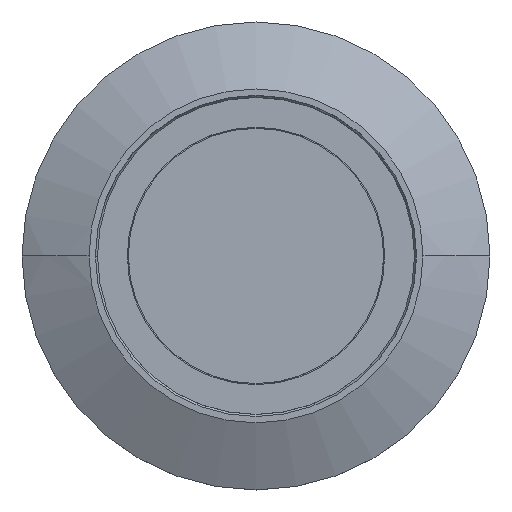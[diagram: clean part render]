
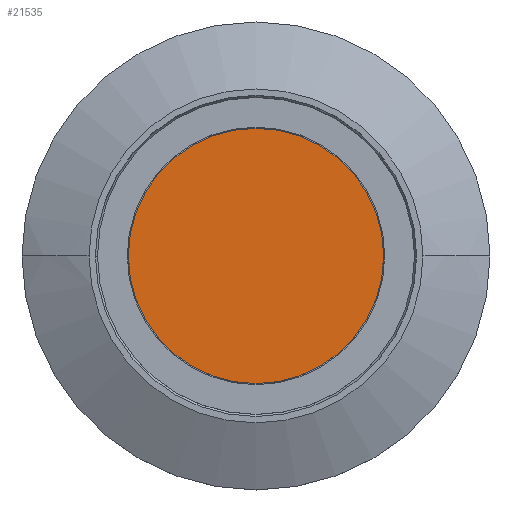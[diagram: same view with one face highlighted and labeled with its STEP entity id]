
A CAD part, top view. The second image highlights one B-rep face of the part: STEP entity #21535.
In plain terms, the highlighted planar face has unit normal (0, 0, 1).
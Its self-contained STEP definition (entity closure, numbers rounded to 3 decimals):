
#7733=CARTESIAN_POINT('',(0.,0.,25.3));
#7734=DIRECTION('',(0.,0.,-1.));
#7735=DIRECTION('',(1.,0.,0.));
#7736=AXIS2_PLACEMENT_3D('',#7733,#7734,#7735);
#7738=CARTESIAN_POINT('',(0.,0.,25.3));
#7739=DIRECTION('',(0.,0.,-1.));
#7740=DIRECTION('',(-1.,0.,0.));
#7741=AXIS2_PLACEMENT_3D('',#7738,#7739,#7740);
#10469=CARTESIAN_POINT('',(6.,0.,25.3));
#10470=CARTESIAN_POINT('',(-6.,0.,25.3));
#10471=VERTEX_POINT('',#10469);
#10472=VERTEX_POINT('',#10470);
#21526=CARTESIAN_POINT('',(0.,0.,25.3));
#21527=DIRECTION('',(0.,0.,-1.));
#21528=DIRECTION('',(1.,0.,0.));
#21529=AXIS2_PLACEMENT_3D('',#21526,#21527,#21528);
#21530=PLANE('',#21529);
#21531=ORIENTED_EDGE('',*,*,#21520,.T.);
#21532=ORIENTED_EDGE('',*,*,#21506,.T.);
#21533=EDGE_LOOP('',(#21531,#21532));
#21534=FACE_OUTER_BOUND('',#21533,.F.);
#21535=ADVANCED_FACE('',(#21534),#21530,.F.);
#7737=CIRCLE('',#7736,6.);
#7742=CIRCLE('',#7741,6.);
#21506=EDGE_CURVE('',#10472,#10471,#7742,.T.);
#21520=EDGE_CURVE('',#10471,#10472,#7737,.T.);
